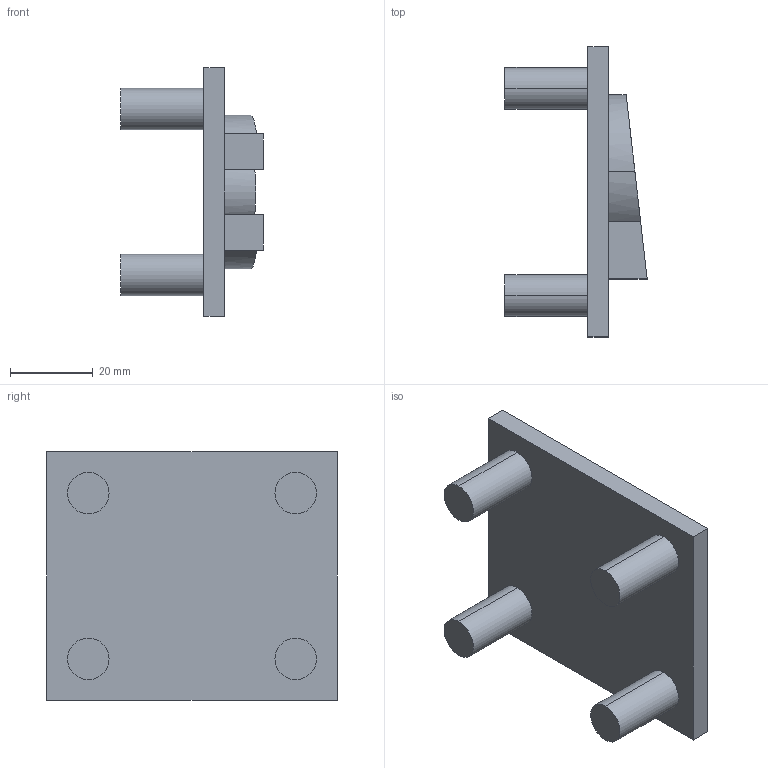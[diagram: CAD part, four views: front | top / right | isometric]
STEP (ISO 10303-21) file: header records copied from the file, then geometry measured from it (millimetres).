
FILE_DESCRIPTION(('STEP AP214'),'1');
FILE_NAME('C:/Users/mashimo/Documents/円弧動エンジン/ボア4.4ｃｍ/TurboCAD/3D/tmp0.STEP','2023-12-27T10:18:40',(' '),(' '),'Spatial InterOp 3D',' ',' ');
FILE_SCHEMA(('automotive_design'));
Length unit declared in the file: millimetre
Products named in the file (1): 1
Bounding box: 34.32 x 70 x 60 mm (x, y, z)
Volume: 33354.7 mm3; surface area: 14565.5 mm2
Topology: 1 solids, 1 shells, 40 faces, 93 edges, 63 vertices
Faces by surface type: cylinder 20, plane 20
Entity records: 1508 total; most frequent: DIRECTION 218, CARTESIAN_POINT 197, ORIENTED_EDGE 186, EDGE_CURVE 93, AXIS2_PLACEMENT_3D 84, VERTEX_POINT 63, LINE 50, VECTOR 50
